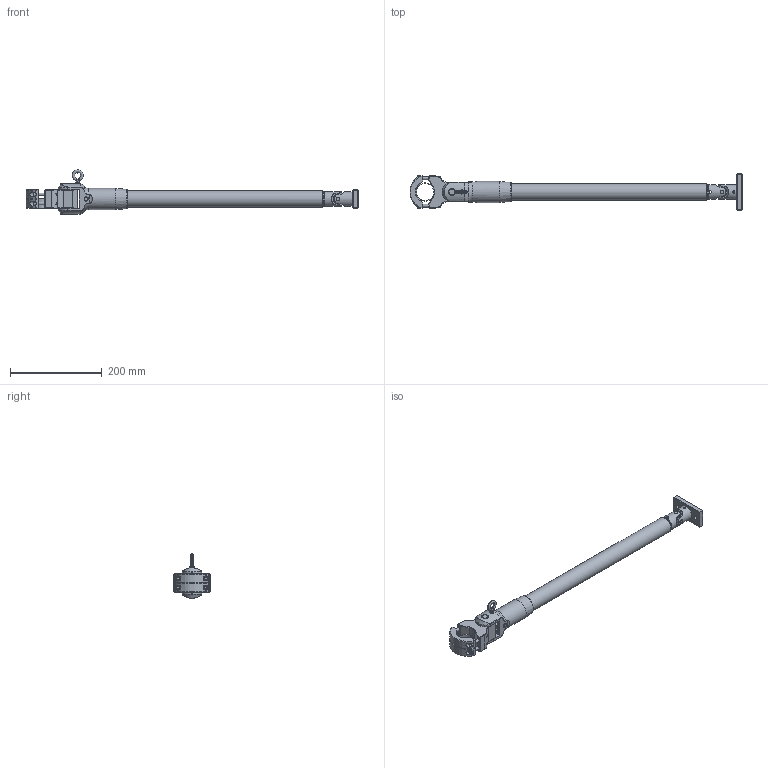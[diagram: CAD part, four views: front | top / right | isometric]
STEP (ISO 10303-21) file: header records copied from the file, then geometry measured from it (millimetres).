
FILE_DESCRIPTION( ( 'Unknown' ), '1' );
FILE_NAME( 'D:/dogabe/Industrie/Assemblage 2009/09-50-3468 doga DMF120/DMF 120 LONGUEUR1500/4-1244023_bras DMFI 120_1500_3D/4-1244023_bras DMFI 120_1500.stp', 'Unknown', ( 'Unknown' ), ( 'Unknown' ), 'PSStep 14.0', 'Unknown', ' ' );
FILE_SCHEMA( ( 'AUTOMOTIVE_DESIGN { 1 0 10303 214 1 1 1 1 }' ) );
Length unit declared in the file: millimetre
Products named in the file (29): Asm Cardan L65 modifié pour dmf 160; Cardan 1 L65 modifié DMF 160; cardan 3 L65 modifié DMF 160; Cardan 2 L65; jonc dia20 assemblé DMF 160 long 1500; Tube 20.2x24.8; jonc dia.20 DMF 160 long 1500; tube 32 x 36 assemblé DMF 160 long 1500; Tube 32x36 LG1500 DMF 160; Tube 28.2x31.8; Asm Pince DMF80; Collier BA100; Collier BA100-oa0; CHC M6x45 fileté sous tete; CHC M6x45 fileté sous tete-oa1; CHC M6x45 fileté sous tete-oa2; CHC M6x45 fileté sous tete-oa3; Placement; Pince DMF80; tube 28 x 25 assembléDMF 160 long 1500; Tube 25x28 LG1500 DMF 160; Assem1; Anneau élastique pour arbre 8; axe chape; butée; Chape pour pince; plaque de fixation; axe dia 8 mm; Piton M6
Assembly tree (31 placements, depth 3):
  Assem1
    Anneau élastique pour arbre 8  x2
    axe chape
    butée
    Chape pour pince
    plaque de fixation
    axe dia 8 mm
    Piton M6
    tube 32 x 36 assemblé DMF 160 long 1500
      Tube 32x36 LG1500 DMF 160
      Tube 28.2x31.8
    tube 28 x 25 assembléDMF 160 long 1500
      Tube 25x28 LG1500 DMF 160
      Tube 28.2x31.8
      Tube 20.2x24.8
    jonc dia20 assemblé DMF 160 long 1500
      Tube 20.2x24.8
      jonc dia.20 DMF 160 long 1500
    Asm Cardan L65 modifié pour dmf 160
      Cardan 1 L65 modifié DMF 160
      cardan 3 L65 modifié DMF 160
      Cardan 2 L65
    Asm Pince DMF80
      Collier BA100
      Collier BA100-oa0
      CHC M6x45 fileté sous tete
      CHC M6x45 fileté sous tete-oa1
      CHC M6x45 fileté sous tete-oa2
      CHC M6x45 fileté sous tete-oa3
      Placement
      Pince DMF80
Bounding box: 723.79 x 80 x 96.48 mm (x, y, z)
Volume: 745873.2 mm3; surface area: 381031.4 mm2
Topology: 26 solids, 26 shells, 466 faces, 1076 edges, 669 vertices
Faces by surface type: plane 249, cylinder 141, cone 51, torus 14, bspline 8, sphere 3
Full cylindrical faces by diameter (mm): 1 x4, 4.134 x2, 4.917 x5, 5.2 x6, 5.8 x4, 6 x5, 6.5 x4, 7.6 x2, 8 x15, 8.1 x2, 8.5 x2, 10 x4, 14 x6, 16 x3, 20 x3, 20.3 x3, 24.8 x2, 25 x1, 28 x1, 28.4 x2, 30.3 x1, 31.5 x1, 31.8 x2, 32 x4, 36 x2, 38 x1, 40 x1, 46 x1
Entity records: 19037 total; most frequent: CARTESIAN_POINT 6073, DIRECTION 1948, ORIENTED_EDGE 1668, EDGE_CURVE 834, AXIS2_PLACEMENT_3D 748, EDGE_LOOP 672, VERTEX_POINT 578, FACE_OUTER_BOUND 536
